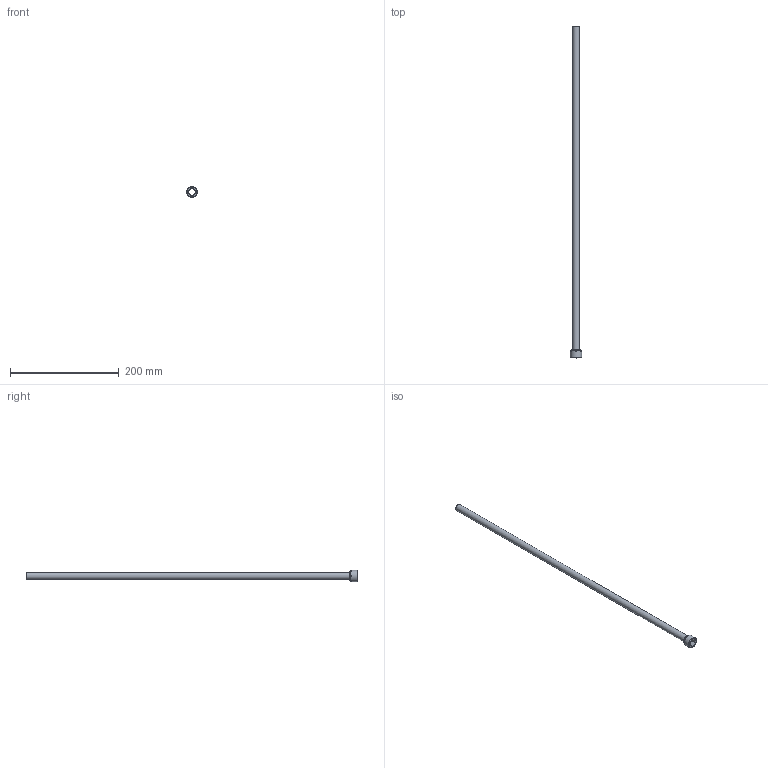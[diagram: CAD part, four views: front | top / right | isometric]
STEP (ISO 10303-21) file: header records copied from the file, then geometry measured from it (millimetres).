
FILE_DESCRIPTION(/* description */ (''),/* implementation_level */ '2;1');
FILE_NAME(/* name */ 'C:/Users/drich/Desktop/PT12-500-24 v1.step',/* time_stamp */ '2019-12-27T14:58:47-06:00',/* author */ (''),/* organization */ (''),/* preprocessor_version */ 'ST-DEVELOPER v18',/* originating_system */ 'Autodesk Translation Framework v8.12.0.6',/* authorisation */ '');
FILE_SCHEMA (('AUTOMOTIVE_DESIGN { 1 0 10303 214 3 1 1 }'));
Length unit declared in the file: inch
Products named in the file (1): PT12-500-24
Bounding box: 20.81 x 609.6 x 20.81 mm (x, y, z)
Volume: 18809 mm3; surface area: 46752.8 mm2
Topology: 1 solids, 1 shells, 19 faces, 48 edges, 34 vertices
Faces by surface type: plane 11, cylinder 4, torus 2, cone 2
Full cylindrical faces by diameter (mm): 11.278 x1, 12.7 x1, 15.85 x1, 20.813 x1
Entity records: 633 total; most frequent: DIRECTION 112, CARTESIAN_POINT 102, ORIENTED_EDGE 96, EDGE_CURVE 48, AXIS2_PLACEMENT_3D 44, VERTEX_POINT 34, CIRCLE 24, EDGE_LOOP 24
